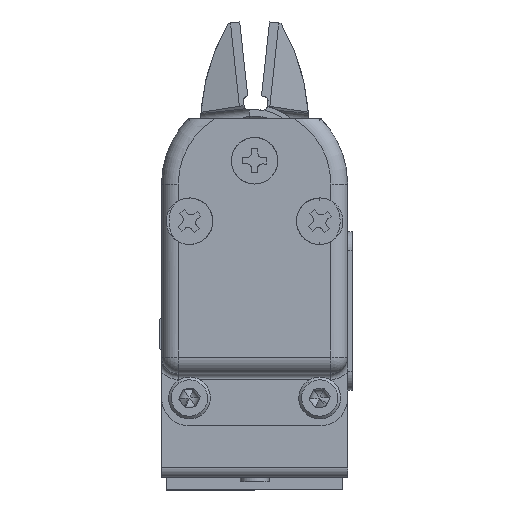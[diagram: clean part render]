
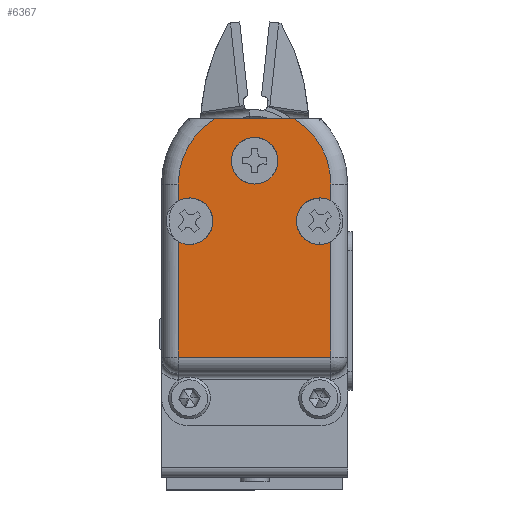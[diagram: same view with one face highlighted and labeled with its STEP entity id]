
A CAD part, top view. The second image highlights one B-rep face of the part: STEP entity #6367.
In plain terms, the highlighted planar face has unit normal (0, 0, 1).
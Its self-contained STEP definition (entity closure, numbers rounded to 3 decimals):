
#275 = AXIS2_PLACEMENT_3D ( 'NONE', #12748, #16772, #19969 ) ;
#439 = DIRECTION ( 'NONE',  ( 0., 0., 1. ) ) ;
#776 = CIRCLE ( 'NONE', #10337, 2.5 ) ;
#1034 = DIRECTION ( 'NONE',  ( 0., 1., 0. ) ) ;
#1082 = ORIENTED_EDGE ( 'NONE', *, *, #16665, .T. ) ;
#1426 = VERTEX_POINT ( 'NONE', #10478 ) ;
#1782 = VERTEX_POINT ( 'NONE', #11832 ) ;
#1835 = DIRECTION ( 'NONE',  ( 0., 0., 1. ) ) ;
#2136 = ORIENTED_EDGE ( 'NONE', *, *, #12862, .T. ) ;
#2151 = EDGE_CURVE ( 'NONE', #23562, #32967, #21386, .T. ) ;
#2358 = AXIS2_PLACEMENT_3D ( 'NONE', #31514, #34483, #41030 ) ;
#2725 = CARTESIAN_POINT ( 'NONE',  ( 8.2, 16.099, 0.374 ) ) ;
#3131 = DIRECTION ( 'NONE',  ( 0., 1., 0. ) ) ;
#3435 = CARTESIAN_POINT ( 'NONE',  ( 7., 12.099, 0.374 ) ) ;
#3613 = EDGE_CURVE ( 'NONE', #32967, #20800, #29868, .T. ) ;
#4463 = CARTESIAN_POINT ( 'NONE',  ( 7., 12.099, 0.374 ) ) ;
#4972 = VERTEX_POINT ( 'NONE', #32566 ) ;
#5288 = CARTESIAN_POINT ( 'NONE',  ( -4.271, 23.099, 0.374 ) ) ;
#6367 = ADVANCED_FACE ( 'NONE', ( #31001, #14182 ), #11026, .F. ) ;
#6417 = CIRCLE ( 'NONE', #275, 2.5 ) ;
#7264 = EDGE_CURVE ( 'NONE', #16990, #37593, #12493, .T. ) ;
#7420 = CIRCLE ( 'NONE', #26413, 2.5 ) ;
#8556 = EDGE_CURVE ( 'NONE', #1426, #24068, #7420, .T. ) ;
#9122 = CARTESIAN_POINT ( 'NONE',  ( 8.2, 14.292, 0.374 ) ) ;
#10337 = AXIS2_PLACEMENT_3D ( 'NONE', #4463, #439, #39993 ) ;
#10478 = CARTESIAN_POINT ( 'NONE',  ( -8.2, 9.906, 0.374 ) ) ;
#11026 = PLANE ( 'NONE',  #35213 ) ;
#11832 = CARTESIAN_POINT ( 'NONE',  ( 0., 16.099, 0.374 ) ) ;
#12122 = ORIENTED_EDGE ( 'NONE', *, *, #36906, .T. ) ;
#12348 = ORIENTED_EDGE ( 'NONE', *, *, #15252, .F. ) ;
#12493 = LINE ( 'NONE', #16073, #31110 ) ;
#12748 = CARTESIAN_POINT ( 'NONE',  ( 0., 18.599, 0.374 ) ) ;
#12862 = EDGE_CURVE ( 'NONE', #1426, #16990, #33979, .T. ) ;
#13077 = CARTESIAN_POINT ( 'NONE',  ( -8.2, 16.099, 0.374 ) ) ;
#13560 = VECTOR ( 'NONE', #3131, 1000. ) ;
#13585 = CARTESIAN_POINT ( 'NONE',  ( -8.2, -2.501, 0.374 ) ) ;
#14182 = FACE_OUTER_BOUND ( 'NONE', #30542, .T. ) ;
#14222 = CARTESIAN_POINT ( 'NONE',  ( -8.2, 16.099, 0.374 ) ) ;
#15252 = EDGE_CURVE ( 'NONE', #41891, #1782, #6417, .T. ) ;
#15706 = LINE ( 'NONE', #2725, #13560 ) ;
#15996 = DIRECTION ( 'NONE',  ( 0., 0., 1. ) ) ;
#16034 = DIRECTION ( 'NONE',  ( 0., -1., 0. ) ) ;
#16071 = VECTOR ( 'NONE', #38240, 1000. ) ;
#16073 = CARTESIAN_POINT ( 'NONE',  ( 0., -2.501, 0.374 ) ) ;
#16665 = EDGE_CURVE ( 'NONE', #39094, #24068, #32651, .T. ) ;
#16772 = DIRECTION ( 'NONE',  ( 0., 0., 1. ) ) ;
#16990 = VERTEX_POINT ( 'NONE', #13585 ) ;
#17647 = CARTESIAN_POINT ( 'NONE',  ( 7., 14.599, 0.374 ) ) ;
#17690 = EDGE_CURVE ( 'NONE', #37593, #20560, #36804, .T. ) ;
#18646 = DIRECTION ( 'NONE',  ( 0., 0., -1. ) ) ;
#19139 = CIRCLE ( 'NONE', #29307, 8.2 ) ;
#19206 = CARTESIAN_POINT ( 'NONE',  ( 7., 12.099, 0.374 ) ) ;
#19338 = ORIENTED_EDGE ( 'NONE', *, *, #17690, .T. ) ;
#19401 = DIRECTION ( 'NONE',  ( 0., 1., 0. ) ) ;
#19573 = EDGE_CURVE ( 'NONE', #33820, #4972, #19139, .T. ) ;
#19612 = DIRECTION ( 'NONE',  ( 0., 0., 1. ) ) ;
#19969 = DIRECTION ( 'NONE',  ( 0., 1., 0. ) ) ;
#20560 = VERTEX_POINT ( 'NONE', #35161 ) ;
#20800 = VERTEX_POINT ( 'NONE', #27243 ) ;
#20817 = ORIENTED_EDGE ( 'NONE', *, *, #19573, .T. ) ;
#21127 = EDGE_CURVE ( 'NONE', #4972, #33028, #25892, .T. ) ;
#21386 = CIRCLE ( 'NONE', #36246, 2.5 ) ;
#21616 = CARTESIAN_POINT ( 'NONE',  ( 0., 18.599, 0.374 ) ) ;
#22044 = DIRECTION ( 'NONE',  ( 1., 0., 0. ) ) ;
#22250 = DIRECTION ( 'NONE',  ( 0., 1., 0. ) ) ;
#23562 = VERTEX_POINT ( 'NONE', #9122 ) ;
#23655 = CARTESIAN_POINT ( 'NONE',  ( 0., 21.099, 0.374 ) ) ;
#24068 = VERTEX_POINT ( 'NONE', #41692 ) ;
#24362 = CARTESIAN_POINT ( 'NONE',  ( 0., 16.099, 0.374 ) ) ;
#25010 = DIRECTION ( 'NONE',  ( 0., -1., 0. ) ) ;
#25259 = CARTESIAN_POINT ( 'NONE',  ( -7.141, 23.099, 0.374 ) ) ;
#25607 = CIRCLE ( 'NONE', #28329, 2.5 ) ;
#25892 = LINE ( 'NONE', #25259, #16071 ) ;
#26413 = AXIS2_PLACEMENT_3D ( 'NONE', #36896, #30922, #40865 ) ;
#26729 = DIRECTION ( 'NONE',  ( 0., -1., 0. ) ) ;
#26945 = CARTESIAN_POINT ( 'NONE',  ( 8.2, 16.099, 0.374 ) ) ;
#27243 = CARTESIAN_POINT ( 'NONE',  ( 7., 9.599, 0.374 ) ) ;
#27587 = CARTESIAN_POINT ( 'NONE',  ( -8.2, 16.099, 0.374 ) ) ;
#27607 = ORIENTED_EDGE ( 'NONE', *, *, #27639, .F. ) ;
#27639 = EDGE_CURVE ( 'NONE', #20800, #20560, #776, .T. ) ;
#28306 = ORIENTED_EDGE ( 'NONE', *, *, #7264, .T. ) ;
#28329 = AXIS2_PLACEMENT_3D ( 'NONE', #21616, #40735, #22250 ) ;
#29121 = ORIENTED_EDGE ( 'NONE', *, *, #31281, .T. ) ;
#29307 = AXIS2_PLACEMENT_3D ( 'NONE', #24362, #1835, #26729 ) ;
#29437 = EDGE_LOOP ( 'NONE', ( #12348, #30088 ) ) ;
#29868 = CIRCLE ( 'NONE', #40038, 2.5 ) ;
#30088 = ORIENTED_EDGE ( 'NONE', *, *, #33366, .F. ) ;
#30542 = EDGE_LOOP ( 'NONE', ( #40770, #12122, #20817, #34950, #29121, #1082, #39389, #2136, #28306, #19338, #27607, #31757 ) ) ;
#30608 = CARTESIAN_POINT ( 'NONE',  ( 8.2, 16.099, 0.374 ) ) ;
#30922 = DIRECTION ( 'NONE',  ( 0., 0., 1. ) ) ;
#31001 = FACE_BOUND ( 'NONE', #29437, .T. ) ;
#31110 = VECTOR ( 'NONE', #22044, 1000. ) ;
#31267 = CARTESIAN_POINT ( 'NONE',  ( 8.2, -2.501, 0.374 ) ) ;
#31281 = EDGE_CURVE ( 'NONE', #33028, #39094, #38365, .T. ) ;
#31514 = CARTESIAN_POINT ( 'NONE',  ( 0., 16.099, 0.374 ) ) ;
#31757 = ORIENTED_EDGE ( 'NONE', *, *, #3613, .F. ) ;
#31843 = CARTESIAN_POINT ( 'NONE',  ( 0., 16.099, 0.374 ) ) ;
#32566 = CARTESIAN_POINT ( 'NONE',  ( 4.271, 23.099, 0.374 ) ) ;
#32651 = LINE ( 'NONE', #13077, #35022 ) ;
#32967 = VERTEX_POINT ( 'NONE', #17647 ) ;
#33028 = VERTEX_POINT ( 'NONE', #5288 ) ;
#33366 = EDGE_CURVE ( 'NONE', #1782, #41891, #25607, .T. ) ;
#33820 = VERTEX_POINT ( 'NONE', #26945 ) ;
#33979 = LINE ( 'NONE', #27587, #36496 ) ;
#34483 = DIRECTION ( 'NONE',  ( 0., 0., 1. ) ) ;
#34950 = ORIENTED_EDGE ( 'NONE', *, *, #21127, .T. ) ;
#35022 = VECTOR ( 'NONE', #16034, 1000. ) ;
#35161 = CARTESIAN_POINT ( 'NONE',  ( 8.2, 9.906, 0.374 ) ) ;
#35170 = DIRECTION ( 'NONE',  ( 0., 1., 0. ) ) ;
#35213 = AXIS2_PLACEMENT_3D ( 'NONE', #31843, #18646, #25010 ) ;
#36246 = AXIS2_PLACEMENT_3D ( 'NONE', #3435, #19612, #19401 ) ;
#36496 = VECTOR ( 'NONE', #37184, 1000. ) ;
#36804 = LINE ( 'NONE', #30608, #40012 ) ;
#36896 = CARTESIAN_POINT ( 'NONE',  ( -7., 12.099, 0.374 ) ) ;
#36906 = EDGE_CURVE ( 'NONE', #23562, #33820, #15706, .T. ) ;
#37184 = DIRECTION ( 'NONE',  ( 0., -1., 0. ) ) ;
#37593 = VERTEX_POINT ( 'NONE', #31267 ) ;
#38240 = DIRECTION ( 'NONE',  ( -1., 0., 0. ) ) ;
#38365 = CIRCLE ( 'NONE', #2358, 8.2 ) ;
#39094 = VERTEX_POINT ( 'NONE', #14222 ) ;
#39389 = ORIENTED_EDGE ( 'NONE', *, *, #8556, .F. ) ;
#39993 = DIRECTION ( 'NONE',  ( 0., 1., 0. ) ) ;
#40012 = VECTOR ( 'NONE', #1034, 1000. ) ;
#40038 = AXIS2_PLACEMENT_3D ( 'NONE', #19206, #15996, #35170 ) ;
#40735 = DIRECTION ( 'NONE',  ( 0., 0., 1. ) ) ;
#40770 = ORIENTED_EDGE ( 'NONE', *, *, #2151, .F. ) ;
#40865 = DIRECTION ( 'NONE',  ( 0., 1., 0. ) ) ;
#41030 = DIRECTION ( 'NONE',  ( 0., -1., 0. ) ) ;
#41692 = CARTESIAN_POINT ( 'NONE',  ( -8.2, 14.292, 0.374 ) ) ;
#41891 = VERTEX_POINT ( 'NONE', #23655 ) ;
